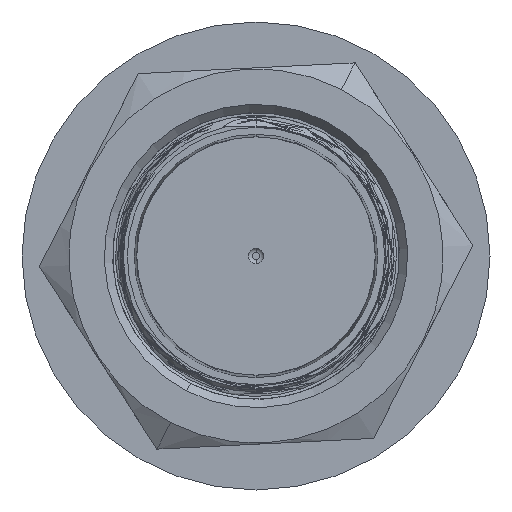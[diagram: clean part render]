
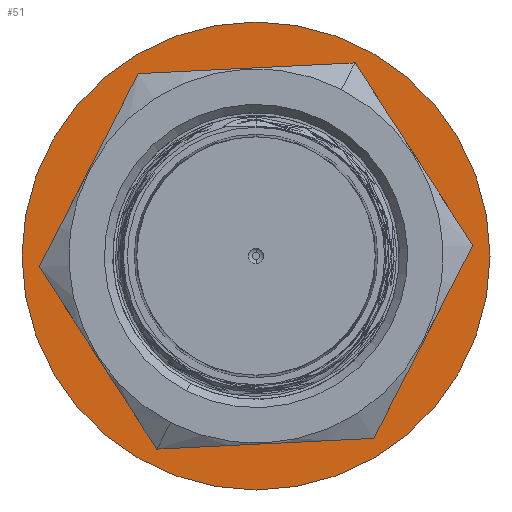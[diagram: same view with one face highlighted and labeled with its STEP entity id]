
A CAD part, left-side view. The second image highlights one B-rep face of the part: STEP entity #51.
In plain terms, the highlighted planar face has unit normal (-1, 0, 0) as drawn and (0, -1, 0) by its records, which use the part's own axes.
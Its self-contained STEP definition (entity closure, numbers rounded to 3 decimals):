
#51 = ADVANCED_FACE ( 'NONE', ( #6536, #20428 ), #18121, .F. ) ;
#2088 = CIRCLE ( 'NONE', #4551, 15. ) ;
#2561 = EDGE_LOOP ( 'NONE', ( #12218, #3263 ) ) ;
#3024 = AXIS2_PLACEMENT_3D ( 'NONE', #13144, #17770, #20382 ) ;
#3083 = CIRCLE ( 'NONE', #4073, 10. ) ;
#3263 = ORIENTED_EDGE ( 'NONE', *, *, #8119, .F. ) ;
#3468 = DIRECTION ( 'NONE',  ( 0., 1., 0. ) ) ;
#3861 = CARTESIAN_POINT ( 'NONE',  ( 0., 0., 0. ) ) ;
#3954 = CARTESIAN_POINT ( 'NONE',  ( 0., 0., -15. ) ) ;
#4062 = DIRECTION ( 'NONE',  ( 0., 1., 0. ) ) ;
#4073 = AXIS2_PLACEMENT_3D ( 'NONE', #23606, #21450, #9706 ) ;
#4491 = CIRCLE ( 'NONE', #3024, 15. ) ;
#4551 = AXIS2_PLACEMENT_3D ( 'NONE', #3861, #8926, #27779 ) ;
#6536 = FACE_OUTER_BOUND ( 'NONE', #2561, .T. ) ;
#7687 = VERTEX_POINT ( 'NONE', #18880 ) ;
#8119 = EDGE_CURVE ( 'NONE', #21388, #21581, #4491, .T. ) ;
#8831 = DIRECTION ( 'NONE',  ( 0., 0., 1. ) ) ;
#8926 = DIRECTION ( 'NONE',  ( 0., 1., 0. ) ) ;
#9706 = DIRECTION ( 'NONE',  ( 0., 0., 1. ) ) ;
#10683 = VERTEX_POINT ( 'NONE', #29892 ) ;
#12218 = ORIENTED_EDGE ( 'NONE', *, *, #16618, .F. ) ;
#13144 = CARTESIAN_POINT ( 'NONE',  ( 0., 0., 0. ) ) ;
#13489 = DIRECTION ( 'NONE',  ( 0., 0., 1. ) ) ;
#16343 = AXIS2_PLACEMENT_3D ( 'NONE', #20569, #4062, #13489 ) ;
#16618 = EDGE_CURVE ( 'NONE', #21581, #21388, #2088, .T. ) ;
#16781 = EDGE_CURVE ( 'NONE', #10683, #7687, #3083, .T. ) ;
#17770 = DIRECTION ( 'NONE',  ( 0., 1., 0. ) ) ;
#17853 = EDGE_CURVE ( 'NONE', #7687, #10683, #22741, .T. ) ;
#18121 = PLANE ( 'NONE',  #22927 ) ;
#18880 = CARTESIAN_POINT ( 'NONE',  ( 0., 0., 10. ) ) ;
#19594 = ORIENTED_EDGE ( 'NONE', *, *, #17853, .T. ) ;
#20382 = DIRECTION ( 'NONE',  ( 0., 0., 1. ) ) ;
#20428 = FACE_BOUND ( 'NONE', #20756, .T. ) ;
#20569 = CARTESIAN_POINT ( 'NONE',  ( 0., 0., 0. ) ) ;
#20756 = EDGE_LOOP ( 'NONE', ( #24170, #19594 ) ) ;
#21388 = VERTEX_POINT ( 'NONE', #22628 ) ;
#21450 = DIRECTION ( 'NONE',  ( 0., 1., 0. ) ) ;
#21581 = VERTEX_POINT ( 'NONE', #3954 ) ;
#22628 = CARTESIAN_POINT ( 'NONE',  ( 0., 0., 15. ) ) ;
#22741 = CIRCLE ( 'NONE', #16343, 10. ) ;
#22927 = AXIS2_PLACEMENT_3D ( 'NONE', #25055, #3468, #8831 ) ;
#23606 = CARTESIAN_POINT ( 'NONE',  ( 0., 0., 0. ) ) ;
#24170 = ORIENTED_EDGE ( 'NONE', *, *, #16781, .T. ) ;
#25055 = CARTESIAN_POINT ( 'NONE',  ( 0., 0., 0. ) ) ;
#27779 = DIRECTION ( 'NONE',  ( 0., 0., 1. ) ) ;
#29892 = CARTESIAN_POINT ( 'NONE',  ( 0., 0., -10. ) ) ;
